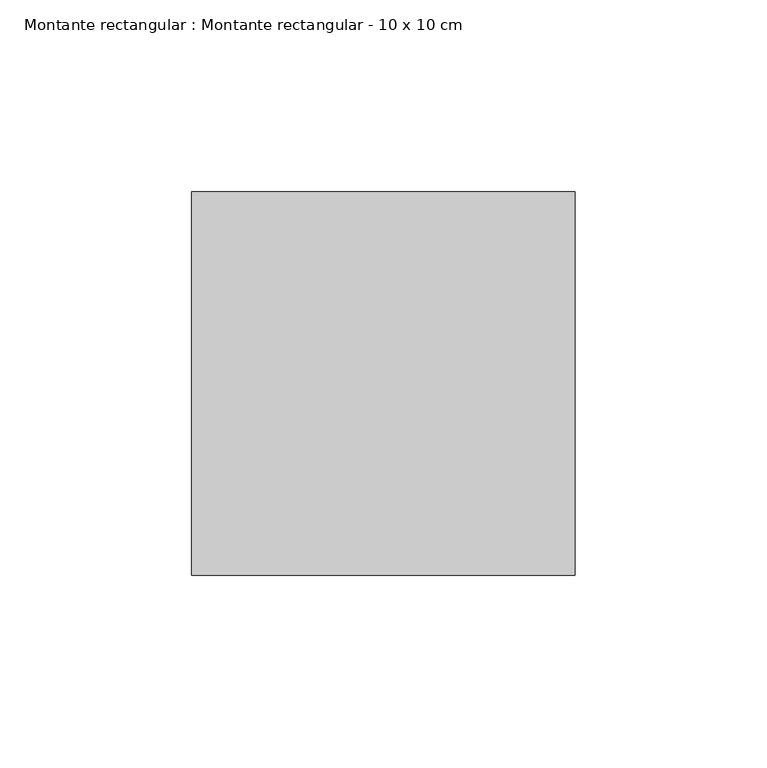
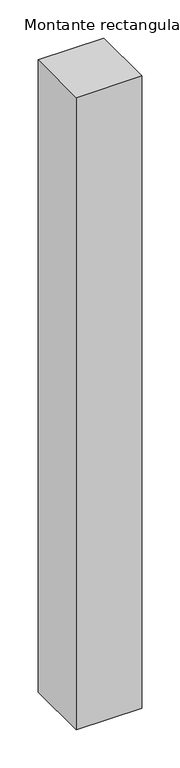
"""IFC4 building model written with IfcOpenShell, lengths in millimetres: member geometry, Montante rectangular : Montante rectangular - 10 x 10 cm."""

from ifc_helpers import new_model, si_unit, frame, origin, place, context, project, spatial, polyline, outline, extrude, source, transform, mapped, element, save


def montante_rectangular_montante_rectangular_10_x_10_cm_db096805(model_context):
    return source(origin(), model_context, "Body", "SweptSolid", [
        extrude(outline(polyline([(-100.0, -50.0), (-100.0, 50.0), (0.0, 50.0), (0.0, -50.0), (-100.0, -50.0)])), frame((0.0, 0.0, -1014.70385), z_axis=(0.0, 0.0, 1.0), x_axis=(1.0, 0.0, 0.0)), (0.0, 0.0, 1.0), 1014.70385),
    ])


if __name__ == "__main__":
    model = new_model("IFC4")
    model_context = context("Model", 3, world=origin())
    ifc_project = project(units=[si_unit("LENGTHUNIT", "METRE", prefix="MILLI")], contexts=[model_context])
    site = spatial("IfcSite", under=ifc_project)
    building = spatial("IfcBuilding", under=site)
    placement = place(None, origin())
    montante_rectangular_montante_rectangular_10_x_10_cm_shape = montante_rectangular_montante_rectangular_10_x_10_cm_db096805(model_context)
    element("IfcMember", 1, ObjectType="Montante rectangular : Montante rectangular - 10 x 10 cm", at=placement, inside=building, context=model_context, shape_type="MappedRepresentation", body=[
        mapped(montante_rectangular_montante_rectangular_10_x_10_cm_shape, transform((0.0, 0.0, 0.0), x_axis=(1.0, 0.0, 0.0), y_axis=(0.0, 1.0, 0.0), z_axis=(0.0, 0.0, 1.0))),
    ])
    save(model, "model.ifc")
